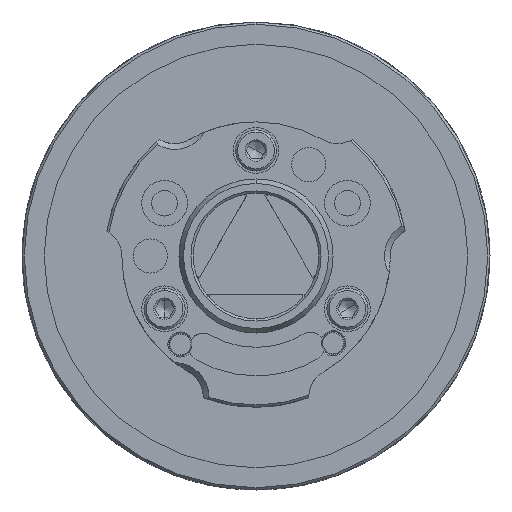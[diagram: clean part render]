
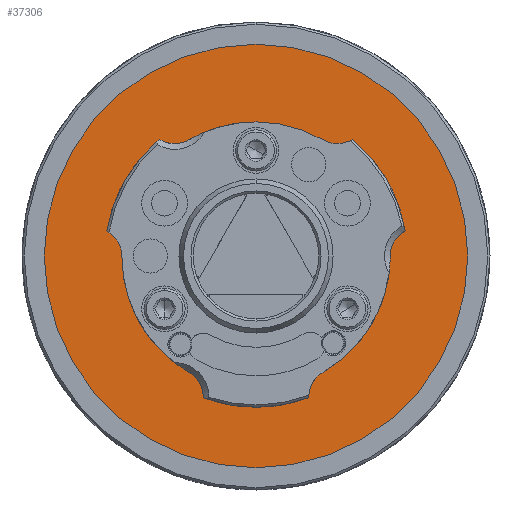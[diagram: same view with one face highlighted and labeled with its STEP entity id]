
A CAD part, front view. The second image highlights one B-rep face of the part: STEP entity #37306.
In plain terms, the highlighted planar face has unit normal (0, -1, 0).
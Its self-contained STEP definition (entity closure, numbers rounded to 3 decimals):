
#155 = ORIENTED_EDGE ( 'NONE', *, *, #44219, .T. ) ;
#778 = CARTESIAN_POINT ( 'NONE',  ( 0., -18.6, 0. ) ) ;
#2260 = DIRECTION ( 'NONE',  ( 0., 0., 1. ) ) ;
#5873 = DIRECTION ( 'NONE',  ( 0., 1., 0. ) ) ;
#6776 = DIRECTION ( 'NONE',  ( 0., 0., 1. ) ) ;
#10387 = CIRCLE ( 'NONE', #22774, 23.5 ) ;
#11818 = PLANE ( 'NONE',  #31411 ) ;
#13007 = AXIS2_PLACEMENT_3D ( 'NONE', #48133, #5873, #2260 ) ;
#13168 = EDGE_CURVE ( 'NONE', #30615, #45004, #10387, .T. ) ;
#13219 = DIRECTION ( 'NONE',  ( 0., 1., 0. ) ) ;
#13516 = EDGE_LOOP ( 'NONE', ( #18060, #49305 ) ) ;
#14435 = CARTESIAN_POINT ( 'NONE',  ( 0., -18.6, 0. ) ) ;
#18060 = ORIENTED_EDGE ( 'NONE', *, *, #28327, .F. ) ;
#19453 = VERTEX_POINT ( 'NONE', #36755 ) ;
#21780 = ORIENTED_EDGE ( 'NONE', *, *, #13168, .T. ) ;
#21868 = CIRCLE ( 'NONE', #50065, 37.1 ) ;
#22774 = AXIS2_PLACEMENT_3D ( 'NONE', #778, #13219, #47190 ) ;
#23976 = DIRECTION ( 'NONE',  ( 0., 0., -1. ) ) ;
#24636 = CARTESIAN_POINT ( 'NONE',  ( 0., -18.6, 37.1 ) ) ;
#24785 = CARTESIAN_POINT ( 'NONE',  ( 0., -18.6, 23.5 ) ) ;
#28032 = CARTESIAN_POINT ( 'NONE',  ( 0., -18.6, 0. ) ) ;
#28327 = EDGE_CURVE ( 'NONE', #32095, #19453, #39459, .T. ) ;
#29454 = CARTESIAN_POINT ( 'NONE',  ( 0., -18.6, -23.5 ) ) ;
#29490 = FACE_BOUND ( 'NONE', #42736, .T. ) ;
#30615 = VERTEX_POINT ( 'NONE', #29454 ) ;
#30862 = AXIS2_PLACEMENT_3D ( 'NONE', #28032, #45432, #6776 ) ;
#30969 = EDGE_CURVE ( 'NONE', #19453, #32095, #21868, .T. ) ;
#31411 = AXIS2_PLACEMENT_3D ( 'NONE', #24785, #50206, #23976 ) ;
#31544 = DIRECTION ( 'NONE',  ( 0., 0., 1. ) ) ;
#32095 = VERTEX_POINT ( 'NONE', #24636 ) ;
#33612 = FACE_OUTER_BOUND ( 'NONE', #13516, .T. ) ;
#35264 = CIRCLE ( 'NONE', #30862, 23.5 ) ;
#36755 = CARTESIAN_POINT ( 'NONE',  ( 0., -18.6, -37.1 ) ) ;
#37306 = ADVANCED_FACE ( 'NONE', ( #29490, #33612 ), #11818, .T. ) ;
#39459 = CIRCLE ( 'NONE', #13007, 37.1 ) ;
#40054 = CARTESIAN_POINT ( 'NONE',  ( 0., -18.6, 23.5 ) ) ;
#42736 = EDGE_LOOP ( 'NONE', ( #155, #21780 ) ) ;
#44219 = EDGE_CURVE ( 'NONE', #45004, #30615, #35264, .T. ) ;
#45004 = VERTEX_POINT ( 'NONE', #40054 ) ;
#45432 = DIRECTION ( 'NONE',  ( 0., 1., 0. ) ) ;
#47190 = DIRECTION ( 'NONE',  ( 0., 0., 1. ) ) ;
#47333 = DIRECTION ( 'NONE',  ( 0., 1., 0. ) ) ;
#48133 = CARTESIAN_POINT ( 'NONE',  ( 0., -18.6, 0. ) ) ;
#49305 = ORIENTED_EDGE ( 'NONE', *, *, #30969, .F. ) ;
#50065 = AXIS2_PLACEMENT_3D ( 'NONE', #14435, #47333, #31544 ) ;
#50206 = DIRECTION ( 'NONE',  ( 0., -1., 0. ) ) ;
